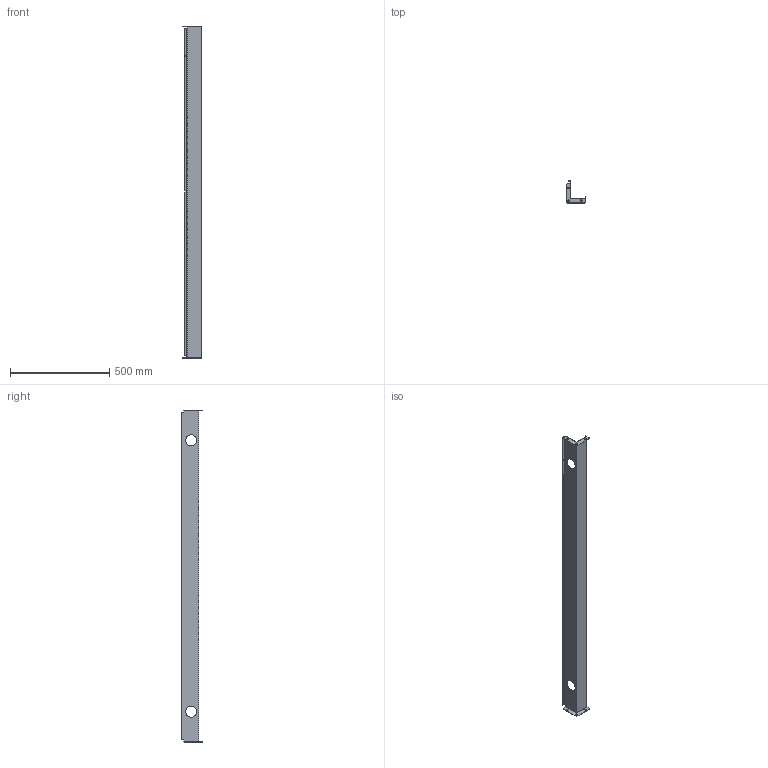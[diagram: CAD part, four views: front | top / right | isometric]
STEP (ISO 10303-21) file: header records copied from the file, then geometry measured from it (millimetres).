
FILE_DESCRIPTION (( 'STEP AP203' ), '1' );
FILE_NAME ('MILADESIGN kanál G2 ST201K–18_217638 a 218769 a 219263 a 219769_3D.STEP', '2022-02-24T06:49:14', ( '' ), ( '' ), 'SwSTEP 2.0', 'SolidWorks 2019', '' );
FILE_SCHEMA (( 'CONFIG_CONTROL_DESIGN' ));
Length unit declared in the file: millimetre
Products named in the file (1): MILADESIGN kanál G2 ST201K–18_217638 a 218769 a 219263 a 219769_3D
Bounding box: 95 x 110 x 1670 mm (x, y, z)
Volume: 311363.4 mm3; surface area: 615049.1 mm2
Topology: 3 solids, 3 shells, 76 faces, 194 edges, 124 vertices
Faces by surface type: plane 52, cylinder 24
Entity records: 2387 total; most frequent: DIRECTION 396, CARTESIAN_POINT 395, ORIENTED_EDGE 388, EDGE_CURVE 194, LINE 146, VECTOR 146, AXIS2_PLACEMENT_3D 125, VERTEX_POINT 124
